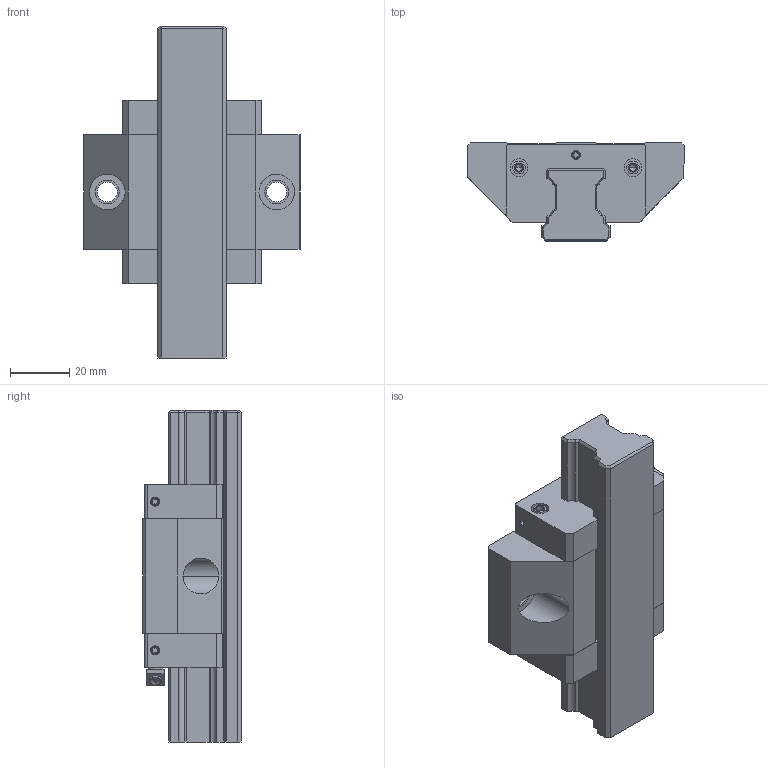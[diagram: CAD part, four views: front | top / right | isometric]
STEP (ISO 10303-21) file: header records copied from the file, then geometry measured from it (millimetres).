
FILE_DESCRIPTION((''),'2;1');
FILE_NAME('KWC_025_FKN_CS__ASM','2021-10-14T07:48:59',('ac91sw'),(''),'CREO PARAMETRIC BY PTC INC, 2020044','CREO PARAMETRIC BY PTC INC, 2020044','');
FILE_SCHEMA(('AUTOMOTIVE_DESIGN { 1 0 10303 214 1 1 1 1 }'));
Length unit declared in the file: millimetre
Products named in the file (7): KWC_025_FKN_CS__SKEL; R166320131; R169420002_Z; R343708901_Z; KWC_025_FKN_CS__PSF; R341700409_Z; KWC_025_FKN_CS__ASM
Assembly tree (11 placements, depth 2):
  KWC_025_FKN_CS__ASM
    KWC_025_FKN_CS__SKEL
    R166320131
    R169420002_Z  x2
    R343708901_Z  x5
    KWC_025_FKN_CS__PSF
    R341700409_Z
Bounding box: 73 x 33 x 111.7 mm (x, y, z)
Volume: 111209.8 mm3; surface area: 36377.2 mm2
Topology: 10 solids, 21 shells, 385 faces, 955 edges, 608 vertices
Faces by surface type: plane 221, cylinder 112, cone 52
Entity records: 13566 total; most frequent: CARTESIAN_POINT 1543, DIRECTION 1263, ORIENTED_EDGE 1170, PROPERTY_DEFINITION 818, REPRESENTATION 810, PROPERTY_DEFINITION_REPRESENTATION 810, DESCRIPTIVE_REPRESENTATION_ITEM 754, GENERAL_PROPERTY 749
